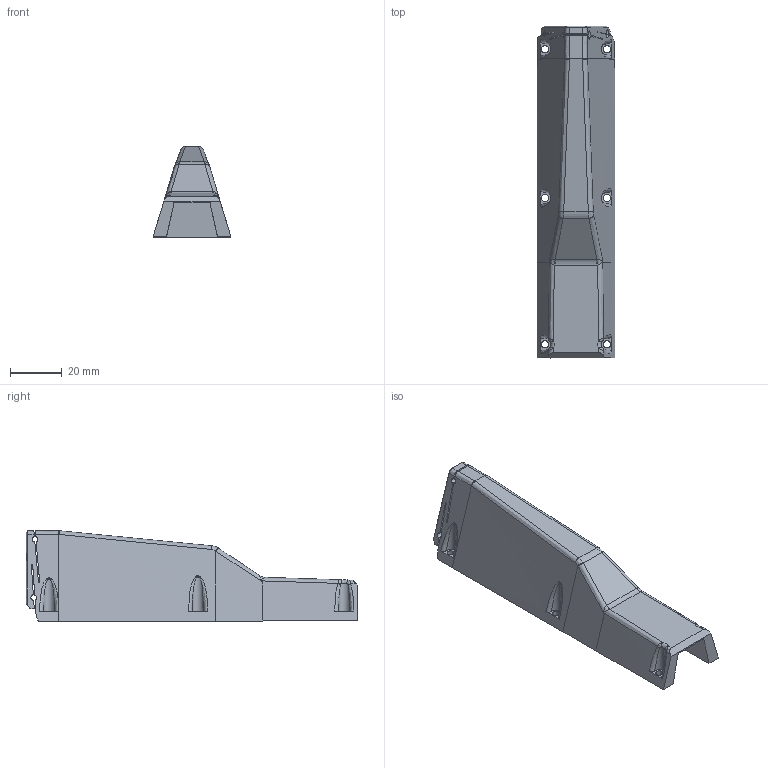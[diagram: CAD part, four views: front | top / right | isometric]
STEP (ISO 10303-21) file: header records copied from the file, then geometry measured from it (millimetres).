
FILE_DESCRIPTION(('HOOPS Exchange Step'),'2;1');
FILE_NAME('/private/var/mobile/Containers/Data/Application/CF5FE49D-83C9-4FF2-81F6-0AAB70978F0F/tmp/export/temp_export','2026-08-29T23:13:12+19:00',('mobile'),('Shapr3D Limited'),'HOOPS Exchange 2026.3','Shapr3D','Authorized');
FILE_SCHEMA( ('AP242_MANAGED_MODEL_BASED_3D_ENGINEERING_MIM_LF {1 0 10303 442 1 1 4}') );
Length unit declared in the file: millimetre
Products named in the file (3): Compass; Compass lid.step; root
Assembly tree (2 placements, depth 3):
  root
    Compass lid.step
      Compass
Bounding box: 30.06 x 128.2 x 34.98 mm (x, y, z)
Volume: 35530.2 mm3; surface area: 19108.9 mm2
Topology: 1 solids, 1 shells, 157 faces, 424 edges, 271 vertices
Faces by surface type: plane 57, bspline 56, cylinder 44
Full cylindrical faces by diameter (mm): 2.8 x6
Entity records: 13906 total; most frequent: CARTESIAN_POINT 10465, ORIENTED_EDGE 846, DIRECTION 450, EDGE_CURVE 423, VERTEX_POINT 271, B_SPLINE_CURVE_WITH_KNOTS 210, EDGE_LOOP 176, FACE_BOUND 176
